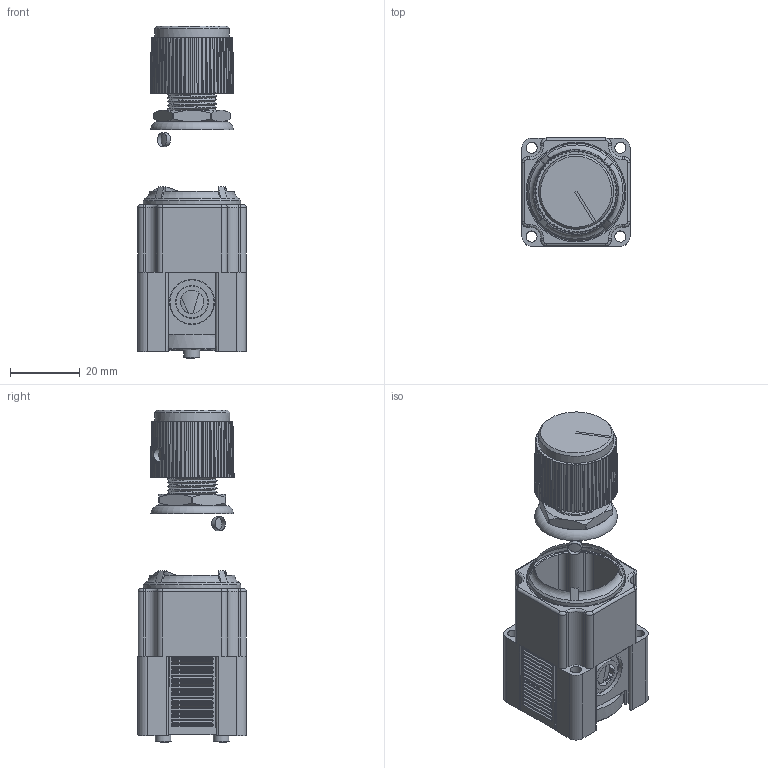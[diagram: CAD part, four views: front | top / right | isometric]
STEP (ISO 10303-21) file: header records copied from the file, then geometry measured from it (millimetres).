
FILE_DESCRIPTION(/* description */ (''),/* implementation_level */ '2;1');
FILE_NAME(/* name */ 'K:\Normteile INVENTOR\Air-Logic\Regulators\R6000\R 6___ Template Shrinkwrap.igs.ipt.stp',/* time_stamp */ '2020-05-27T10:57:59+02:00',/* author */ ('Paul'),/* organization */ (''),/* preprocessor_version */ 'ST-DEVELOPER v18',/* originating_system */ 'Autodesk Inventor 2020',/* authorisation */ '');
FILE_SCHEMA (('AUTOMOTIVE_DESIGN { 1 0 10303 214 3 1 1 }'));
Length unit declared in the file: inch
Products named in the file (1): R 6___ Template Shrinkwrap.igs
Bounding box: 31.19 x 31.06 x 95.02 mm (x, y, z)
Volume: 55029.1 mm3; surface area: 16508.4 mm2
Topology: 1 solids, 1 shells, 907 faces, 2329 edges, 1493 vertices
Faces by surface type: plane 437, cylinder 333, cone 83, torus 31, bspline 23
Full cylindrical faces by diameter (mm): 1.194 x1, 2.032 x1, 3.124 x2, 3.175 x8, 3.988 x1, 4.064 x1, 4.521 x2, 8.382 x2, 9.169 x1, 12.903 x1, 19.406 x1, 21.476 x1, 27.94 x1, 28.575 x1
Entity records: 33570 total; most frequent: CARTESIAN_POINT 9996, DIRECTION 4992, ORIENTED_EDGE 4658, EDGE_CURVE 2329, AXIS2_PLACEMENT_3D 1954, VERTEX_POINT 1493, LINE 1084, VECTOR 1084
